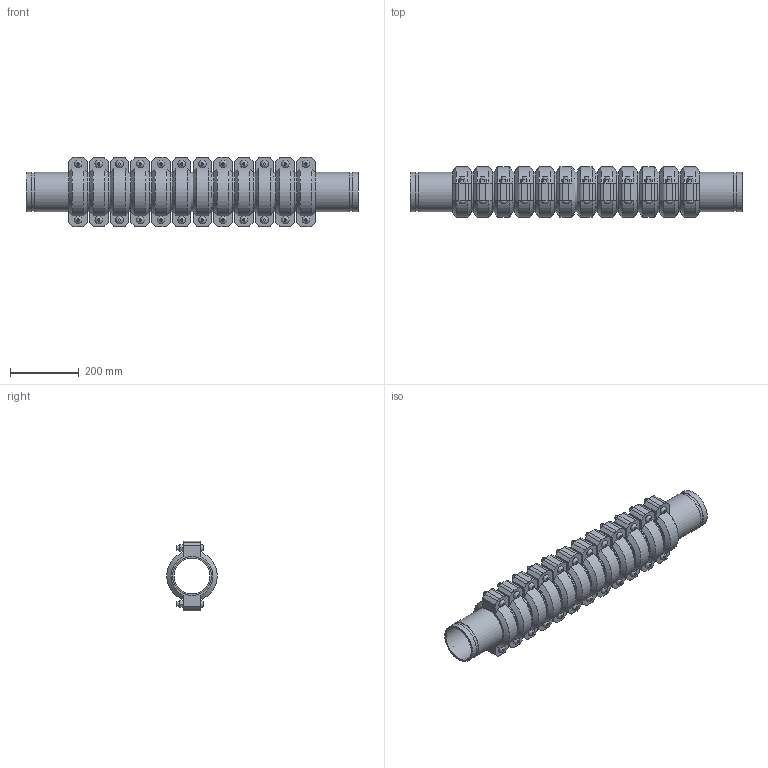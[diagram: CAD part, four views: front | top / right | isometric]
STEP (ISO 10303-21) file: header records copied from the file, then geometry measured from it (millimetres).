
FILE_DESCRIPTION(/* description */ ('VIC SS EXPANSION JOINT 12 COUPLINGS COMPRESSED STYLE 155P (OGS) (POTABLE WATER) ','CAx-IF Rec.Pracs.---Representation and Presentation of Product Manufacturing Information (PMI)---4.0---2014-10-13'),/* implementation_level */ '2;1');
FILE_NAME(/* name */ 'C:\Users\kkamble\AppData\Roaming\Autodesk\ApplicationPlugins\Victaulic.Temp\A528\Victaulic_SS_Expansion Joint_Compressed_12 Couplings_Style 155P (OGS)-Potable Water_12 Coup_Comp_4 (100).stp',/* time_stamp */ '2021-07-16T17:08:16+06:00',/* author */ ('kkamble'),/* organization */ ('Victaulic'),/* preprocessor_version */ 'ST-DEVELOPER v17.2',/* originating_system */ 'Autodesk Inventor 2019',/* authorisation */ '');
FILE_SCHEMA (('AP242_MANAGED_MODEL_BASED_3D_ENGINEERING_MIM_LF { 1 0 10303 442 1 1 4 }'));
Length unit declared in the file: inch
Products named in the file (4): 155P-04.0; Nipple-04.0; Nipple-04.0_1; 075-04.0
Assembly tree (25 placements, depth 2):
  155P-04.0
    Nipple-04.0  x2
    Nipple-04.0_1  x11
    075-04.0  x12
Bounding box: 969.01 x 147.32 x 203.96 mm (x, y, z)
Volume: 7285751.8 mm3; surface area: 1655725.7 mm2
Topology: 25 solids, 49 shells, 792 faces, 1914 edges, 1344 vertices
Faces by surface type: plane 486, cylinder 234, cone 48, bspline 24
Full cylindrical faces by diameter (mm): 12.7 x48, 14.605 x24, 103.988 x13, 110.084 x26, 114.3 x51
Entity records: 2801 total; most frequent: CARTESIAN_POINT 495, DIRECTION 475, ORIENTED_EDGE 374, AXIS2_PLACEMENT_3D 192, EDGE_CURVE 187, VERTEX_POINT 134, EDGE_LOOP 101, LINE 91
